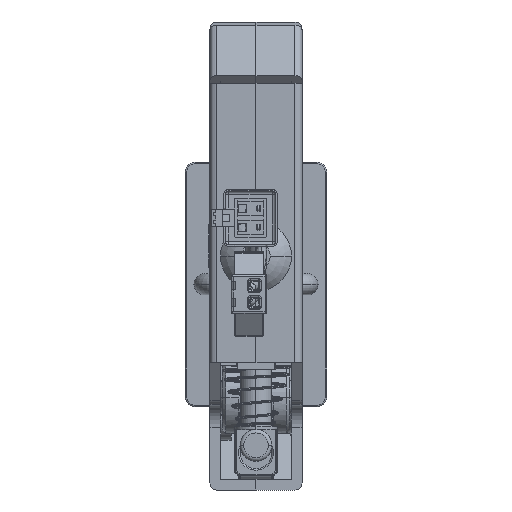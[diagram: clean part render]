
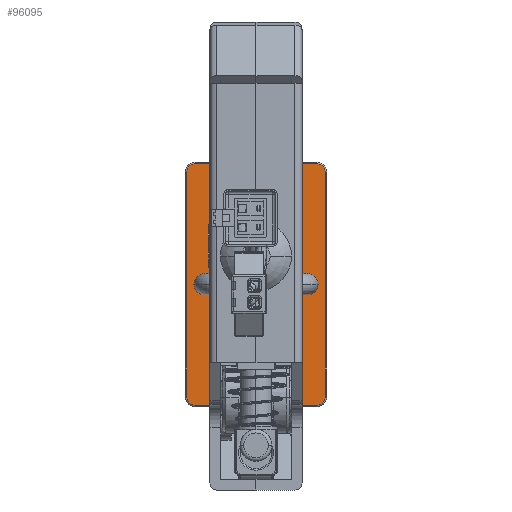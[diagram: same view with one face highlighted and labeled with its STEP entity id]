
A CAD part, left-side view. The second image highlights one B-rep face of the part: STEP entity #96095.
In plain terms, the highlighted planar face has unit normal (-1, 0, 0) as drawn and (0, 1, 0) by its records, which use the part's own axes.
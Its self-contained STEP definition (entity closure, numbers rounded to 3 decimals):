
#95120=CARTESIAN_POINT('',(7.25,1.5,0.));
#95121=DIRECTION('',(0.,1.,0.));
#95122=DIRECTION('',(-1.,0.,0.));
#95123=AXIS2_PLACEMENT_3D('',#95120,#95121,#95122);
#95128=CARTESIAN_POINT('',(7.25,1.5,0.));
#95129=DIRECTION('',(0.,1.,0.));
#95130=DIRECTION('',(1.,0.,0.));
#95131=AXIS2_PLACEMENT_3D('',#95128,#95129,#95130);
#95136=CARTESIAN_POINT('',(-7.25,1.5,0.));
#95137=DIRECTION('',(0.,-1.,0.));
#95138=DIRECTION('',(1.,0.,0.));
#95139=AXIS2_PLACEMENT_3D('',#95136,#95137,#95138);
#95144=CARTESIAN_POINT('',(-7.25,1.5,0.));
#95145=DIRECTION('',(0.,-1.,0.));
#95146=DIRECTION('',(-1.,0.,0.));
#95147=AXIS2_PLACEMENT_3D('',#95144,#95145,#95146);
#95152=CARTESIAN_POINT('',(-8.5,1.5,-15.75));
#95153=DIRECTION('',(0.,1.,0.));
#95154=DIRECTION('',(0.,0.,-1.));
#95155=AXIS2_PLACEMENT_3D('',#95152,#95153,#95154);
#95160=DIRECTION('',(-1.,0.,0.));
#95161=VECTOR('',#95160,17.);
#95162=CARTESIAN_POINT('',(8.5,1.5,-17.05));
#95163=LINE('',#95162,#95161);
#95167=CARTESIAN_POINT('',(8.5,1.5,-15.75));
#95168=DIRECTION('',(0.,1.,0.));
#95169=DIRECTION('',(1.,0.,0.));
#95170=AXIS2_PLACEMENT_3D('',#95167,#95168,#95169);
#95175=DIRECTION('',(0.,0.,-1.));
#95176=VECTOR('',#95175,31.5);
#95177=CARTESIAN_POINT('',(9.8,1.5,15.75));
#95178=LINE('',#95177,#95176);
#95182=CARTESIAN_POINT('',(8.5,1.5,15.75));
#95183=DIRECTION('',(0.,1.,0.));
#95184=DIRECTION('',(0.,0.,1.));
#95185=AXIS2_PLACEMENT_3D('',#95182,#95183,#95184);
#95190=DIRECTION('',(1.,0.,0.));
#95191=VECTOR('',#95190,17.);
#95192=CARTESIAN_POINT('',(-8.5,1.5,17.05));
#95193=LINE('',#95192,#95191);
#95197=CARTESIAN_POINT('',(-8.5,1.5,15.75));
#95198=DIRECTION('',(0.,1.,0.));
#95199=DIRECTION('',(-1.,0.,0.));
#95200=AXIS2_PLACEMENT_3D('',#95197,#95198,#95199);
#95205=DIRECTION('',(0.,0.,1.));
#95206=VECTOR('',#95205,31.5);
#95207=CARTESIAN_POINT('',(-9.8,1.5,-15.75));
#95208=LINE('',#95207,#95206);
#95212=CARTESIAN_POINT('',(0.,1.5,-12.5));
#95213=DIRECTION('',(0.,-1.,0.));
#95214=DIRECTION('',(1.,0.,0.));
#95215=AXIS2_PLACEMENT_3D('',#95212,#95213,#95214);
#95220=CARTESIAN_POINT('',(0.,1.5,-12.5));
#95221=DIRECTION('',(0.,-1.,0.));
#95222=DIRECTION('',(-1.,0.,0.));
#95223=AXIS2_PLACEMENT_3D('',#95220,#95221,#95222);
#95228=CARTESIAN_POINT('',(0.,1.5,12.5));
#95229=DIRECTION('',(0.,-1.,0.));
#95230=DIRECTION('',(1.,0.,0.));
#95231=AXIS2_PLACEMENT_3D('',#95228,#95229,#95230);
#95236=CARTESIAN_POINT('',(0.,1.5,12.5));
#95237=DIRECTION('',(0.,-1.,0.));
#95238=DIRECTION('',(-1.,0.,0.));
#95239=AXIS2_PLACEMENT_3D('',#95236,#95237,#95238);
#95832=CARTESIAN_POINT('',(5.75,1.5,0.));
#95833=CARTESIAN_POINT('',(8.75,1.5,0.));
#95834=VERTEX_POINT('',#95832);
#95835=VERTEX_POINT('',#95833);
#95836=CARTESIAN_POINT('',(-5.75,1.5,0.));
#95837=CARTESIAN_POINT('',(-8.75,1.5,0.));
#95838=VERTEX_POINT('',#95836);
#95839=VERTEX_POINT('',#95837);
#95840=CARTESIAN_POINT('',(-8.5,1.5,-17.05));
#95841=CARTESIAN_POINT('',(-9.8,1.5,-15.75));
#95842=VERTEX_POINT('',#95840);
#95843=VERTEX_POINT('',#95841);
#95848=CARTESIAN_POINT('',(-9.8,1.5,15.75));
#95849=VERTEX_POINT('',#95848);
#95852=CARTESIAN_POINT('',(-8.5,1.5,17.05));
#95853=VERTEX_POINT('',#95852);
#95856=CARTESIAN_POINT('',(8.5,1.5,17.05));
#95857=VERTEX_POINT('',#95856);
#95860=CARTESIAN_POINT('',(9.8,1.5,15.75));
#95861=VERTEX_POINT('',#95860);
#95864=CARTESIAN_POINT('',(9.8,1.5,-15.75));
#95865=VERTEX_POINT('',#95864);
#95868=CARTESIAN_POINT('',(8.5,1.5,-17.05));
#95869=VERTEX_POINT('',#95868);
#95904=CARTESIAN_POINT('',(3.483,1.5,-12.5));
#95905=CARTESIAN_POINT('',(-3.483,1.5,-12.5));
#95906=VERTEX_POINT('',#95904);
#95907=VERTEX_POINT('',#95905);
#95912=CARTESIAN_POINT('',(3.483,1.5,12.5));
#95913=CARTESIAN_POINT('',(-3.483,1.5,12.5));
#95914=VERTEX_POINT('',#95912);
#95915=VERTEX_POINT('',#95913);
#96049=CARTESIAN_POINT('',(0.,1.5,0.));
#96050=DIRECTION('',(0.,1.,0.));
#96051=DIRECTION('',(1.,0.,0.));
#96052=AXIS2_PLACEMENT_3D('',#96049,#96050,#96051);
#96053=PLANE('',#96052);
#96055=ORIENTED_EDGE('',*,*,#96054,.F.);
#96057=ORIENTED_EDGE('',*,*,#96056,.F.);
#96059=ORIENTED_EDGE('',*,*,#96058,.F.);
#96061=ORIENTED_EDGE('',*,*,#96060,.F.);
#96063=ORIENTED_EDGE('',*,*,#96062,.F.);
#96065=ORIENTED_EDGE('',*,*,#96064,.F.);
#96067=ORIENTED_EDGE('',*,*,#96066,.F.);
#96069=ORIENTED_EDGE('',*,*,#96068,.F.);
#96070=EDGE_LOOP('',(#96055,#96057,#96059,#96061,#96063,#96065,#96067,#96069));
#96071=FACE_OUTER_BOUND('',#96070,.F.);
#96073=ORIENTED_EDGE('',*,*,#96072,.F.);
#96075=ORIENTED_EDGE('',*,*,#96074,.F.);
#96076=EDGE_LOOP('',(#96073,#96075));
#96077=FACE_BOUND('',#96076,.F.);
#96079=ORIENTED_EDGE('',*,*,#96078,.T.);
#96081=ORIENTED_EDGE('',*,*,#96080,.T.);
#96082=EDGE_LOOP('',(#96079,#96081));
#96083=FACE_BOUND('',#96082,.F.);
#96085=ORIENTED_EDGE('',*,*,#96084,.F.);
#96086=ORIENTED_EDGE('',*,*,#96027,.F.);
#96087=EDGE_LOOP('',(#96085,#96086));
#96088=FACE_BOUND('',#96087,.F.);
#96090=ORIENTED_EDGE('',*,*,#96089,.F.);
#96092=ORIENTED_EDGE('',*,*,#96091,.F.);
#96093=EDGE_LOOP('',(#96090,#96092));
#96094=FACE_BOUND('',#96093,.F.);
#96095=ADVANCED_FACE('',(#96071,#96077,#96083,#96088,#96094),#96053,.T.);
#95124=CIRCLE('',#95123,1.5);
#95132=CIRCLE('',#95131,1.5);
#95140=CIRCLE('',#95139,1.5);
#95148=CIRCLE('',#95147,1.5);
#95156=CIRCLE('',#95155,1.3);
#95171=CIRCLE('',#95170,1.3);
#95186=CIRCLE('',#95185,1.3);
#95201=CIRCLE('',#95200,1.3);
#95216=CIRCLE('',#95215,3.483);
#95224=CIRCLE('',#95223,3.483);
#95232=CIRCLE('',#95231,3.483);
#95240=CIRCLE('',#95239,3.483);
#96027=EDGE_CURVE('',#95907,#95906,#95224,.T.);
#96054=EDGE_CURVE('',#95842,#95843,#95156,.T.);
#96056=EDGE_CURVE('',#95869,#95842,#95163,.T.);
#96058=EDGE_CURVE('',#95865,#95869,#95171,.T.);
#96060=EDGE_CURVE('',#95861,#95865,#95178,.T.);
#96062=EDGE_CURVE('',#95857,#95861,#95186,.T.);
#96064=EDGE_CURVE('',#95853,#95857,#95193,.T.);
#96066=EDGE_CURVE('',#95849,#95853,#95201,.T.);
#96068=EDGE_CURVE('',#95843,#95849,#95208,.T.);
#96072=EDGE_CURVE('',#95838,#95839,#95140,.T.);
#96074=EDGE_CURVE('',#95839,#95838,#95148,.T.);
#96078=EDGE_CURVE('',#95834,#95835,#95124,.T.);
#96080=EDGE_CURVE('',#95835,#95834,#95132,.T.);
#96084=EDGE_CURVE('',#95906,#95907,#95216,.T.);
#96089=EDGE_CURVE('',#95914,#95915,#95232,.T.);
#96091=EDGE_CURVE('',#95915,#95914,#95240,.T.);
